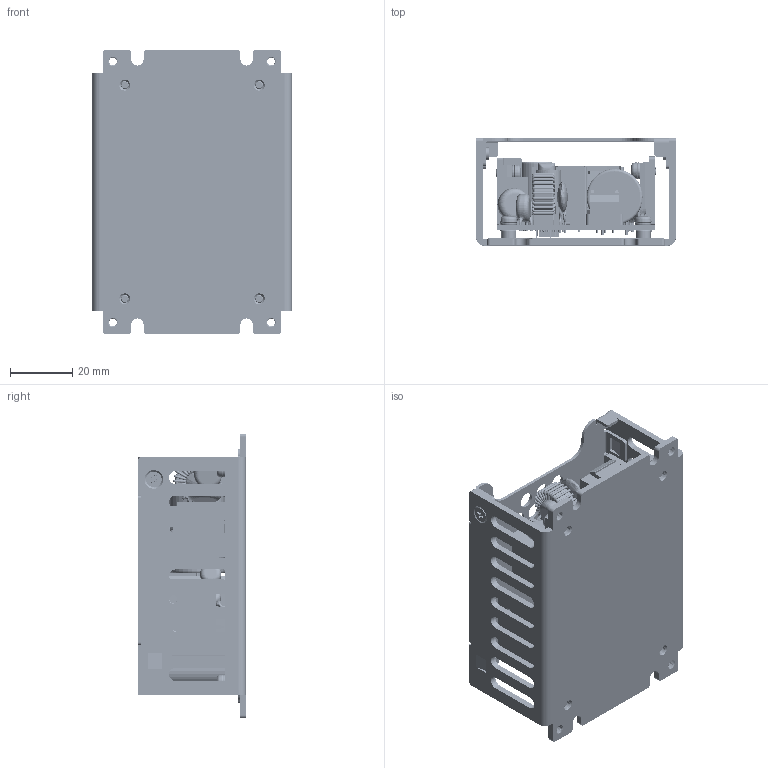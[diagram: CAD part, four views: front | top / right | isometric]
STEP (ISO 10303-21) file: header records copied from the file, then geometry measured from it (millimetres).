
FILE_DESCRIPTION (( 'STEP AP203' ), '1' );
FILE_NAME ('CFM50M(S)XXX-CA ¦¨«~¹Ï M-B129-F (V1.1)-20250310.STEP', '2025-03-10T00:54:41', ( 'cincon' ), ( '' ), 'SwSTEP 2.0', 'SolidWorks 2020', '' );
FILE_SCHEMA (( 'CONFIG_CONTROL_DESIGN' ));
Length unit declared in the file: millimetre
Products named in the file (30): CFM70MXXX  CY6電容示意圖2020.12.11; CFM70MXXX橋式整流器電晶體示意圖2020.12.14; TR70M 散熱片2 G6612470123 (M-B142-00-J)-1070126; M3螺絲和華司6mm 2020.12.14; CFM50M(S)XXX-CA 成品圖 M-B129-F (V1.1)-20250310; M-B143-01-J G6612510423 CFM130M 2x3in金屬外殼上蓋76.2x64x9.8 T=1mm  鋁1050 陽極黑; 電晶體10mm 19.4mm 2020.12.14; CFM70MXXX變壓器示意圖2020.12.11; CFM70MXXX CORE L1示意圖2020.12.11; CFM70MXXX CORE L2示意圖2020.12.14; RM-10-CASE-3P示意圖2020.12.11; CFM80S 散熱片40x22mm  T=2.0mmG6611530412(M-B103-00-J); CFM130M 2x3in金屬外殼下蓋-1070319; CFM70M 4PIN插座2020.12.11; G612911B404 CFM130M-C 絕緣片-1070604; CFM70M 3PINｴ｡ｮy(ｵL2PIN)2020.12.11; CFM70MXXX  T2A電容示意圖2020.12.11; CFM80S 散熱片40x22mm  T=2.0mmG6611530412(M-B103-00-J).SLDPRT; CFM70MXXX  CY1電容示意圖2020.12.11; CFM70SXXX PCB示意圖2020.12.15; ､鎹INA; 平頭十字螺絲 M3x4mm G75A1100432示意圖; CFM130M金屬外殼下蓋六角銅柱(M3x5)-1070119; CFM70MXXX  CY3電容示意圖2020.12.11; 18mm,26.mm電容示意圖2020.12.11; CFM70SXXX 2023.02.08; CFM70MXXX  Z1電容示意圖2020.12.11; ､鎹IN-(ｩl)-1070104; M-B144-00-J G6612520423 CFM130M 2x3in金屬外殼下蓋+銅柱91.4x64x34.5 T=2mm  鋁1050 陽極黑
Assembly tree (42 placements, depth 4):
  CFM50M(S)XXX-CA 成品圖 M-B129-F (V1.1)-20250310
    M-B144-00-J G6612520423 CFM130M 2x3in金屬外殼下蓋+銅柱91.4x64x34.5 T=2mm  鋁1050 陽極黑
      CFM130M 2x3in金屬外殼下蓋-1070319
      CFM130M金屬外殼下蓋六角銅柱(M3x5)-1070119  x4
    CFM70SXXX 2023.02.08
      CFM70SXXX PCB示意圖2020.12.15
      RM-10-CASE-3P示意圖2020.12.11
      CFM70MXXX變壓器示意圖2020.12.11
      CFM70MXXX CORE L2示意圖2020.12.14
      CFM70M 3PINｴ｡ｮy(ｵL2PIN)2020.12.11
      CFM70M 4PIN插座2020.12.11
      18mm,26.mm電容示意圖2020.12.11
      CFM70MXXX  CY1電容示意圖2020.12.11  x3
      CFM70MXXX  CY3電容示意圖2020.12.11  x2
      CFM70MXXX  CY6電容示意圖2020.12.11
      CFM70MXXX  T2A電容示意圖2020.12.11
      CFM70MXXX  Z1電容示意圖2020.12.11
      CFM70MXXX CORE L1示意圖2020.12.11
      TR70M 散熱片2 G6612470123 (M-B142-00-J)-1070126
        TR70M 散熱片2 G6612470123 (M-B142-00-J)-1070126
        ､鎹IN-(ｩl)-1070104
      M3螺絲和華司6mm 2020.12.14  x2
      電晶體10mm 19.4mm 2020.12.14  x2
      CFM80S 散熱片40x22mm  T=2.0mmG6611530412(M-B103-00-J).SLDPRT
        CFM80S 散熱片40x22mm  T=2.0mmG6611530412(M-B103-00-J)
        ､鎹INA
      CFM70MXXX橋式整流器電晶體示意圖2020.12.14
    M-B143-01-J G6612510423 CFM130M 2x3in金屬外殼上蓋76.2x64x9.8 T=1mm  鋁1050 陽極黑
    G612911B404 CFM130M-C 絕緣片-1070604
    M3螺絲和華司6mm 2020.12.14  x4
    平頭十字螺絲 M3x4mm G75A1100432示意圖  x2
Bounding box: 64 x 34.5 x 91.4 mm (x, y, z)
Volume: 59118.7 mm3; surface area: 80500.6 mm2
Topology: 124 solids, 155 shells, 3470 faces, 8909 edges, 5803 vertices
Faces by surface type: cylinder 1511, plane 1288, torus 423, bspline 168, cone 80
Entity records: 107987 total; most frequent: CARTESIAN_POINT 33810, DIRECTION 15547, ORIENTED_EDGE 14436, EDGE_CURVE 7222, AXIS2_PLACEMENT_3D 6113, VERTEX_POINT 4722, CIRCLE 3327, LINE 3321
